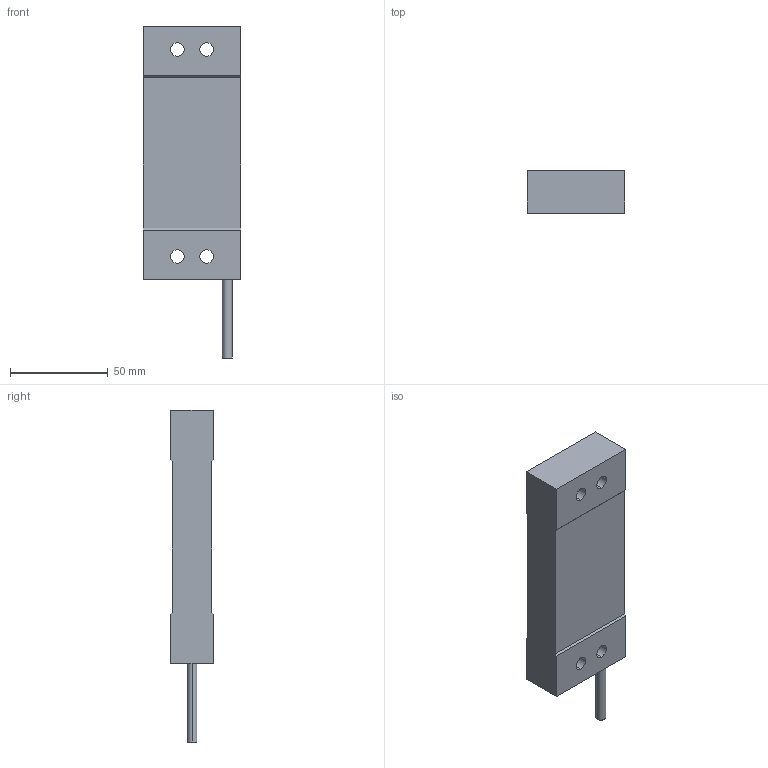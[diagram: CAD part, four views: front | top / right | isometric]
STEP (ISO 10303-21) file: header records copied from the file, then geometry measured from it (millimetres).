
FILE_DESCRIPTION (( 'STEP AP214' ), '1' );
FILE_NAME ('rsp1 (above 50 kg).STEP', '2012-08-28T22:12:35', ( '' ), ( '' ), 'SwSTEP 2.0', 'SolidWorks 2009', '' );
FILE_SCHEMA (( 'AUTOMOTIVE_DESIGN' ));
Length unit declared in the file: millimetre
Products named in the file (1): rsp1 (above 50 kg)
Bounding box: 50 x 22 x 170 mm (x, y, z)
Volume: 132578.8 mm3; surface area: 22945.7 mm2
Topology: 1 solids, 1 shells, 25 faces, 66 edges, 44 vertices
Faces by surface type: plane 15, cylinder 10
Entity records: 907 total; most frequent: DIRECTION 138, CARTESIAN_POINT 136, ORIENTED_EDGE 132, EDGE_CURVE 66, AXIS2_PLACEMENT_3D 46, VECTOR 46, LINE 46, VERTEX_POINT 44
